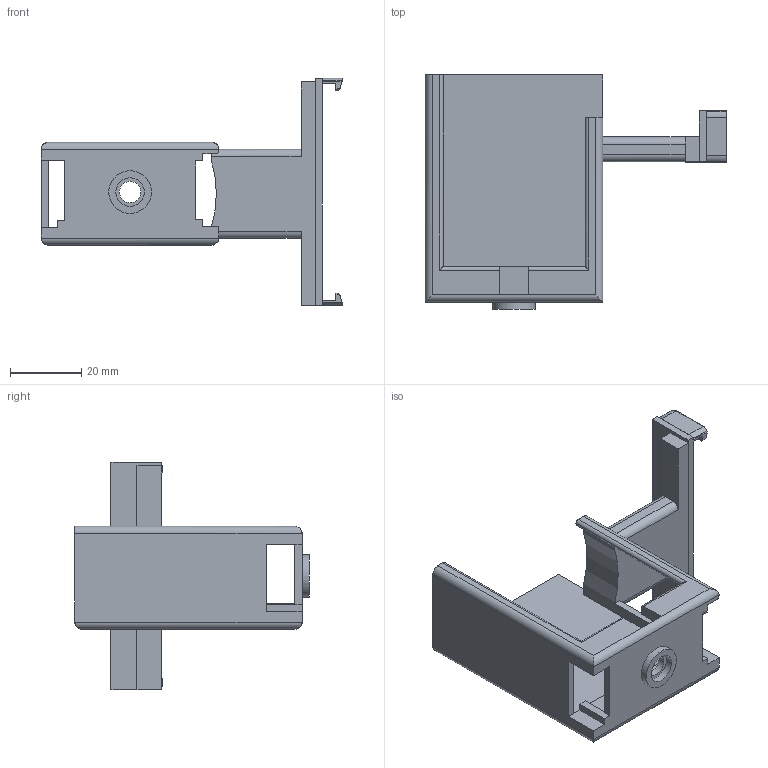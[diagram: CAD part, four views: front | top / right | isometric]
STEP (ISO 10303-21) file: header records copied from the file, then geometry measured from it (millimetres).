
FILE_DESCRIPTION(('Open CASCADE Model'),'2;1');
FILE_NAME('Open CASCADE Shape Model','2026-11-14T12:08:34',('Author'),( 'Open CASCADE'),'Open CASCADE STEP processor 8.0','Open CASCADE 8.0' ,'Unknown');
FILE_SCHEMA(('AUTOMOTIVE_DESIGN { 1 0 10303 214 1 1 1 1 }'));
Length unit declared in the file: millimetre
Products named in the file (3): handheld-body-section-a; handheld-housing; d435-vive-tracker-bracket
Assembly tree (2 placements, depth 2):
  handheld-body-section-a
    handheld-housing
    d435-vive-tracker-bracket
Bounding box: 84.88 x 66 x 64.01 mm (x, y, z)
Volume: 23058.6 mm3; surface area: 19741.5 mm2
Topology: 2 solids, 2 shells, 124 faces, 343 edges, 221 vertices
Faces by surface type: plane 94, cylinder 30
Full cylindrical faces by diameter (mm): 6 x1, 8 x1, 12 x1
Entity records: 9086 total; most frequent: CARTESIAN_POINT 2126, DIRECTION 1308, LINE 881, VECTOR 881, ORIENTED_EDGE 686, PCURVE 686, DEFINITIONAL_REPRESENTATION 686, EDGE_CURVE 343
